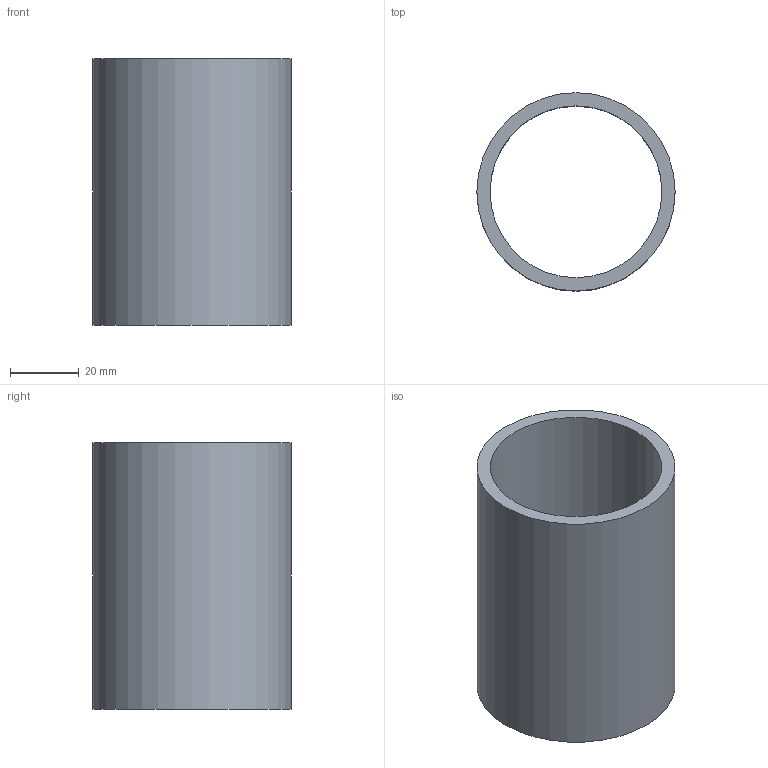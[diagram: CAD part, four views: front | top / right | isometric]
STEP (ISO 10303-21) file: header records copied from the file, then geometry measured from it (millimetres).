
FILE_DESCRIPTION(/* description */ ('STEP AP242 Edition 2','CAx-IF Rec.Pracs.---Representation and Presentation of Product Manufacturing Information (PMI)---4.0---2014-10-13','CAx-IF Rec.Pracs.---3D Tessellated Geometry---0.4---2014-09-14','2;1','CAx-IF Rec.Pracs.---User Defined Attributes---1.5---2016-08-15'),/* implementation_level */ '2;1');
FILE_NAME(/* name */ '69594183bad2e33275e21bc3',/* time_stamp */ '2026-01-03T16:19:16Z',/* author */ (''),/* organization */ (''),/* preprocessor_version */ 'ST-DEVELOPER v20',/* originating_system */ 'ONSHAPE BY PTC INC, 1.208',/* authorisation */ ' ');
FILE_SCHEMA (('AP242_MANAGED_MODEL_BASED_3D_ENGINEERING_MIM_LF { 1 0 10303 442 3 1 4 }'));
Length unit declared in the file: metre
Products named in the file (1): Part 1
Bounding box: 57.8 x 57.8 x 77.85 mm (x, y, z)
Volume: 49573.4 mm3; surface area: 27358.8 mm2
Topology: 1 solids, 1 shells, 4 faces, 9 edges, 6 vertices
Faces by surface type: cylinder 2, plane 1, cone 1
Full cylindrical faces by diameter (mm): 50.1 x1, 57.8 x1
Entity records: 110 total; most frequent: DIRECTION 18, CARTESIAN_POINT 13, AXIS2_PLACEMENT_3D 9, ORIENTED_EDGE 8, EDGE_LOOP 8, FACE_BOUND 8, EDGE_CURVE 4, VERTEX_POINT 4
